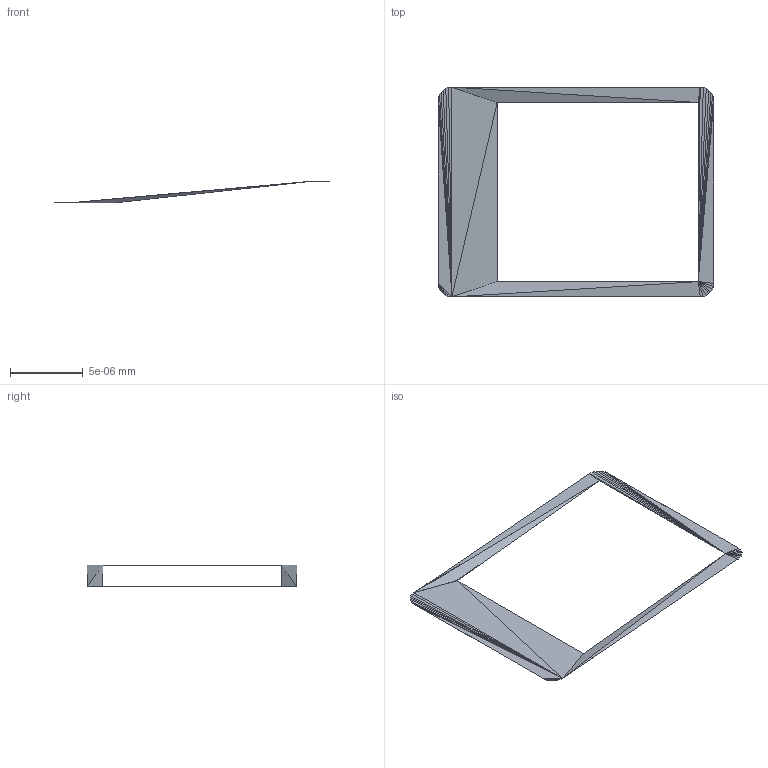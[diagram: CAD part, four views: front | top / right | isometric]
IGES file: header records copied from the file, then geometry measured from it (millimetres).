
Global section: file name: D:\work work Work\JO UNILAMP\Unilamp 2008-2009 up\TUBE\MEGA TUBE-WALL UP & DOWN LIGHT\mega tube-wall up & down light.IGS; native system:  3D Studio VIZ R3.0 ; preprocessor:  3D Studio VIZ Iges Exporter R3.0 ; author: No Author specified; organization: No Organization specified; units: inch
Bounding box: 0 x 0 x 0 mm (x, y, z)
Surface area: 0 mm2 (no closed solid volume)
Topology: 0 solids, 0 shells, 144 faces, 540 edges, 396 vertices
Faces by surface type: bspline 144
